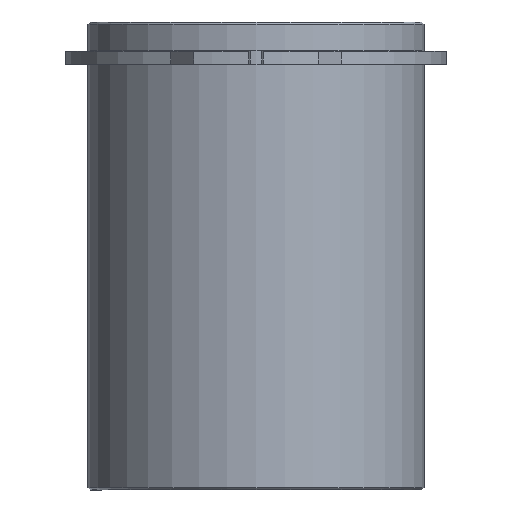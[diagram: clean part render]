
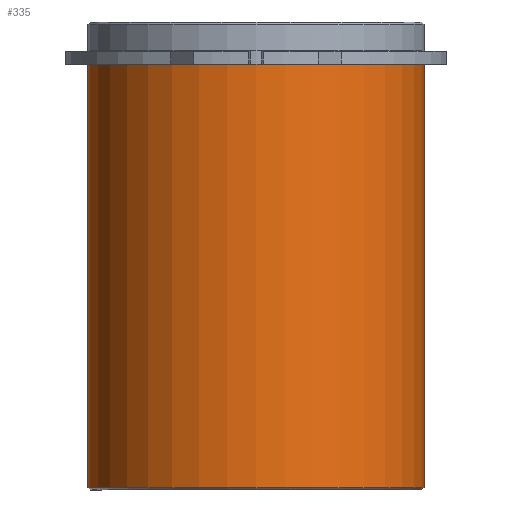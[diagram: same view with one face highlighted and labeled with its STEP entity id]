
A CAD part, front view. The second image highlights one B-rep face of the part: STEP entity #335.
In plain terms, the highlighted cylindrical face has radius 22.625 mm (diameter 45.25 mm), a partial arc.
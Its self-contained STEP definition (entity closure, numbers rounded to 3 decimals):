
#294=CARTESIAN_POINT('',(0.0,0.,-28.5));
#295=DIRECTION('',(0.0,0.,1.0));
#296=DIRECTION('',(1.0,0.0,0.0));
#297=AXIS2_PLACEMENT_3D('',#294,#295,#296);
#298=CYLINDRICAL_SURFACE('',#297,22.625);
#299=CARTESIAN_POINT('',(22.625,0.0,0.0));
#300=VERTEX_POINT('',#299);
#301=CARTESIAN_POINT('',(22.625,0.,-57.0));
#302=VERTEX_POINT('',#301);
#303=CARTESIAN_POINT('',(22.625,0.0,0.0));
#304=DIRECTION('',(0.0,0.0,-1.0));
#305=VECTOR('',#304,57.0);
#306=LINE('',#303,#305);
#307=EDGE_CURVE('',#300,#302,#306,.T.);
#308=ORIENTED_EDGE('',*,*,#307,.F.);
#309=CARTESIAN_POINT('',(-22.625,0.,0.0));
#310=VERTEX_POINT('',#309);
#311=CARTESIAN_POINT('',(0.0,0.0,0.0));
#312=DIRECTION('',(0.0,0.0,1.0));
#313=DIRECTION('',(1.0,0.0,0.0));
#314=AXIS2_PLACEMENT_3D('',#311,#312,#313);
#315=CIRCLE('',#314,22.625);
#316=EDGE_CURVE('',#310,#300,#315,.T.);
#317=ORIENTED_EDGE('',*,*,#316,.F.);
#318=CARTESIAN_POINT('',(-22.625,0.,-57.));
#319=VERTEX_POINT('',#318);
#320=CARTESIAN_POINT('',(-22.625,0.,0.0));
#321=DIRECTION('',(0.0,0.0,-1.0));
#322=VECTOR('',#321,57.);
#323=LINE('',#320,#322);
#324=EDGE_CURVE('',#310,#319,#323,.T.);
#325=ORIENTED_EDGE('',*,*,#324,.T.);
#326=CARTESIAN_POINT('',(0.0,0.,-57.0));
#327=DIRECTION('',(0.0,0.0,1.0));
#328=DIRECTION('',(1.0,0.0,0.0));
#329=AXIS2_PLACEMENT_3D('',#326,#327,#328);
#330=CIRCLE('',#329,22.625);
#331=EDGE_CURVE('',#319,#302,#330,.T.);
#332=ORIENTED_EDGE('',*,*,#331,.T.);
#333=EDGE_LOOP('',(#308,#317,#325,#332));
#334=FACE_OUTER_BOUND('',#333,.T.);
#335=ADVANCED_FACE('',(#334),#298,.T.);
